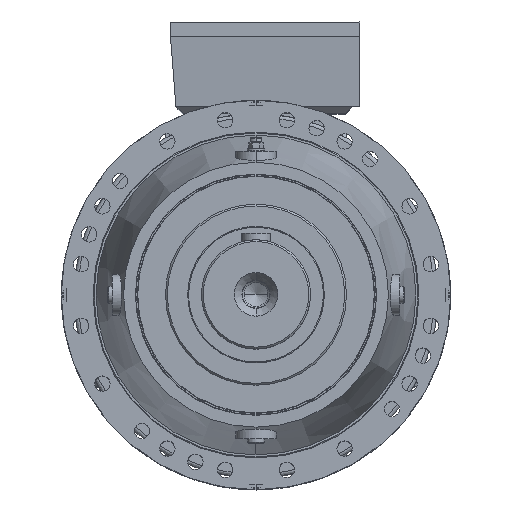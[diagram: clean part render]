
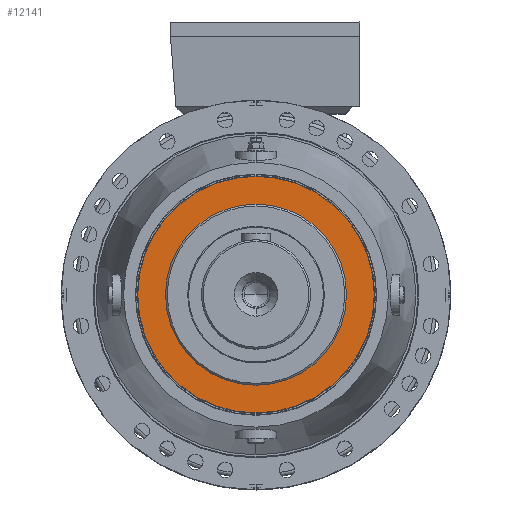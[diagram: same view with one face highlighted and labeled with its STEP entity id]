
A CAD part, top view. The second image highlights one B-rep face of the part: STEP entity #12141.
In plain terms, the highlighted planar face has unit normal (0, 0, 1).
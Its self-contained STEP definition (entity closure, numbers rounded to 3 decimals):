
#4420 = AXIS2_PLACEMENT_3D ( 'NONE', #7508, #7582, #7536 ) ;
#4464 = AXIS2_PLACEMENT_3D ( 'NONE', #7715, #7752, #7684 ) ;
#4507 = AXIS2_PLACEMENT_3D ( 'NONE', #7903, #7834, #7901 ) ;
#4513 = AXIS2_PLACEMENT_3D ( 'NONE', #7553, #7606, #7576 ) ;
#7508 = CARTESIAN_POINT ( 'NONE',  ( 0., 0., 203. ) ) ;
#7536 = DIRECTION ( 'NONE',  ( 0., 1., 0. ) ) ;
#7553 = CARTESIAN_POINT ( 'NONE',  ( 0., 0., 203. ) ) ;
#7576 = DIRECTION ( 'NONE',  ( 0., 1., 0. ) ) ;
#7582 = DIRECTION ( 'NONE',  ( 0., 0., -1. ) ) ;
#7606 = DIRECTION ( 'NONE',  ( 0., 0., 1. ) ) ;
#7684 = DIRECTION ( 'NONE',  ( 0., 1., 0. ) ) ;
#7715 = CARTESIAN_POINT ( 'NONE',  ( 0., 0., 203. ) ) ;
#7752 = DIRECTION ( 'NONE',  ( 0., 0., -1. ) ) ;
#7834 = DIRECTION ( 'NONE',  ( 0., 0., 1. ) ) ;
#7901 = DIRECTION ( 'NONE',  ( 0., 1., 0. ) ) ;
#7903 = CARTESIAN_POINT ( 'NONE',  ( 0., 0., 203. ) ) ;
#12141 = ADVANCED_FACE ( 'NONE', ( #85834, #86007 ), #87974, .F. ) ;
#14644 = EDGE_CURVE ( 'NONE', #31686, #31683, #107651, .T. ) ;
#14651 = EDGE_CURVE ( 'NONE', #31875, #31811, #107653, .T. ) ;
#14664 = EDGE_CURVE ( 'NONE', #31811, #31875, #107666, .T. ) ;
#14689 = EDGE_CURVE ( 'NONE', #31683, #31686, #107708, .T. ) ;
#17051 = ORIENTED_EDGE ( 'NONE', *, *, #14651, .F. ) ;
#17098 = ORIENTED_EDGE ( 'NONE', *, *, #14689, .F. ) ;
#17165 = ORIENTED_EDGE ( 'NONE', *, *, #14664, .F. ) ;
#17169 = ORIENTED_EDGE ( 'NONE', *, *, #14644, .F. ) ;
#31683 = VERTEX_POINT ( 'NONE', #79863 ) ;
#31686 = VERTEX_POINT ( 'NONE', #79877 ) ;
#31811 = VERTEX_POINT ( 'NONE', #78657 ) ;
#31875 = VERTEX_POINT ( 'NONE', #78921 ) ;
#49271 = AXIS2_PLACEMENT_3D ( 'NONE', #87935, #87937, #87917 ) ;
#78657 = CARTESIAN_POINT ( 'NONE',  ( 0., -130., 203. ) ) ;
#78921 = CARTESIAN_POINT ( 'NONE',  ( 0., 130., 203. ) ) ;
#79863 = CARTESIAN_POINT ( 'NONE',  ( 0., -99.5, 203. ) ) ;
#79877 = CARTESIAN_POINT ( 'NONE',  ( 0., 99.5, 203. ) ) ;
#85834 = FACE_BOUND ( 'NONE', #104891, .T. ) ;
#86007 = FACE_OUTER_BOUND ( 'NONE', #104832, .T. ) ;
#87917 = DIRECTION ( 'NONE',  ( 0., 1., 0. ) ) ;
#87935 = CARTESIAN_POINT ( 'NONE',  ( 0., 130., 203. ) ) ;
#87937 = DIRECTION ( 'NONE',  ( 0., 0., -1. ) ) ;
#87974 = PLANE ( 'NONE',  #49271 ) ;
#104832 = EDGE_LOOP ( 'NONE', ( #17051, #17165 ) ) ;
#104891 = EDGE_LOOP ( 'NONE', ( #17169, #17098 ) ) ;
#107651 = CIRCLE ( 'NONE', #4513, 99.5 ) ;
#107653 = CIRCLE ( 'NONE', #4420, 130. ) ;
#107666 = CIRCLE ( 'NONE', #4464, 130. ) ;
#107708 = CIRCLE ( 'NONE', #4507, 99.5 ) ;
